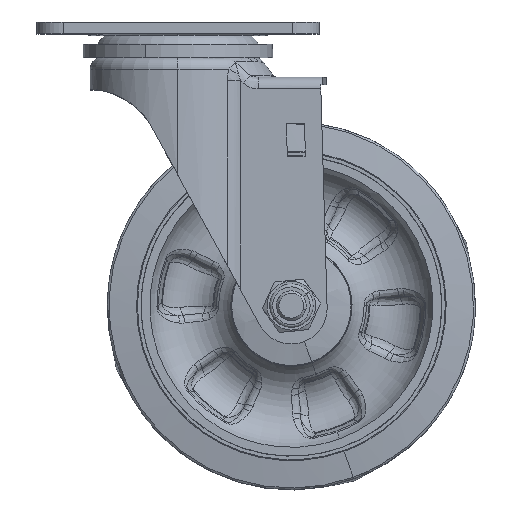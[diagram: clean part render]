
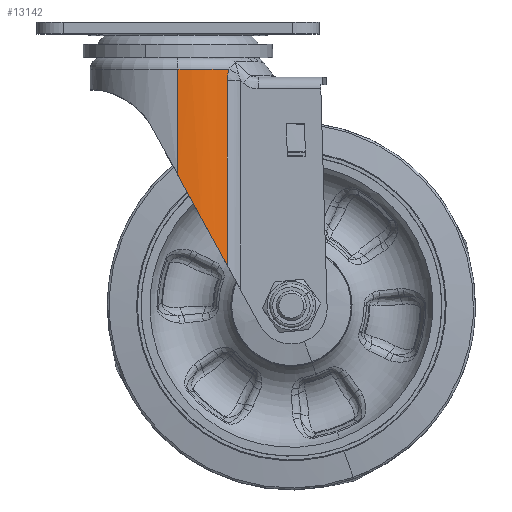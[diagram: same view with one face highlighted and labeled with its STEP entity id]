
A CAD part, top view. The second image highlights one B-rep face of the part: STEP entity #13142.
In plain terms, the highlighted cylindrical face has radius 29.5 mm (diameter 59 mm), a partial arc.
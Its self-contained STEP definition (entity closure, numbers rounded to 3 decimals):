
#267 = CARTESIAN_POINT ( 'NONE',  ( 0., -1.789, 29.5 ) ) ;
#632 = CIRCLE ( 'NONE', #25882, 29.5 ) ;
#3313 = VECTOR ( 'NONE', #17931, 1000. ) ;
#4562 = AXIS2_PLACEMENT_3D ( 'NONE', #7090, #20876, #17707 ) ;
#5695 = DIRECTION ( 'NONE',  ( 0., 0., 1. ) ) ;
#5724 = DIRECTION ( 'NONE',  ( 0., 1., 0. ) ) ;
#6853 = CARTESIAN_POINT ( 'NONE',  ( 16.599, -67.792, 24.387 ) ) ;
#7090 = CARTESIAN_POINT ( 'NONE',  ( 0., 9.943, 0. ) ) ;
#7268 =( BOUNDED_CURVE ( )  B_SPLINE_CURVE ( 3, ( #24094, #17319, #9860, #13021 ),
 .UNSPECIFIED., .F., .T. ) 
 B_SPLINE_CURVE_WITH_KNOTS ( ( 4, 4 ),
 ( 1.571, 2.168 ),
 .UNSPECIFIED. ) 
 CURVE ( )  GEOMETRIC_REPRESENTATION_ITEM ( )  RATIONAL_B_SPLINE_CURVE ( ( 1., 0.97, 0.97, 1. ) ) 
 REPRESENTATION_ITEM ( '' )  );
#9102 = CARTESIAN_POINT ( 'NONE',  ( 0., -1.789, 0. ) ) ;
#9860 = CARTESIAN_POINT ( 'NONE',  ( 11.668, -58.758, 27.744 ) ) ;
#10893 = EDGE_LOOP ( 'NONE', ( #14100, #23816, #21588, #12284, #30601 ) ) ;
#12152 = VERTEX_POINT ( 'NONE', #6853 ) ;
#12284 = ORIENTED_EDGE ( 'NONE', *, *, #21636, .T. ) ;
#13021 = CARTESIAN_POINT ( 'NONE',  ( 16.599, -67.792, 24.387 ) ) ;
#13142 = ADVANCED_FACE ( 'NONE', ( #27674 ), #41471, .T. ) ;
#13426 = VECTOR ( 'NONE', #5724, 1000. ) ;
#14100 = ORIENTED_EDGE ( 'NONE', *, *, #26891, .F. ) ;
#17319 = CARTESIAN_POINT ( 'NONE',  ( 5.966, -48.313, 29.5 ) ) ;
#17707 = DIRECTION ( 'NONE',  ( 0., 0., 1. ) ) ;
#17931 = DIRECTION ( 'NONE',  ( 0., 1., 0. ) ) ;
#18802 = CARTESIAN_POINT ( 'NONE',  ( 16.599, -5.674, 24.387 ) ) ;
#19086 = CARTESIAN_POINT ( 'NONE',  ( 17.096, -1.789, 24.041 ) ) ;
#19715 = CARTESIAN_POINT ( 'NONE',  ( 17.096, -1.789, 24.041 ) ) ;
#19950 = EDGE_CURVE ( 'NONE', #40425, #12152, #7268, .T. ) ;
#20876 = DIRECTION ( 'NONE',  ( 0., 1., 0. ) ) ;
#21588 = ORIENTED_EDGE ( 'NONE', *, *, #27068, .T. ) ;
#21636 = EDGE_CURVE ( 'NONE', #27760, #43125, #26835, .T. ) ;
#22879 = DIRECTION ( 'NONE',  ( 0., 1., 0. ) ) ;
#23816 = ORIENTED_EDGE ( 'NONE', *, *, #19950, .T. ) ;
#24094 = CARTESIAN_POINT ( 'NONE',  ( 0., -37.385, 29.5 ) ) ;
#25150 = LINE ( 'NONE', #28555, #3313 ) ;
#25866 = CARTESIAN_POINT ( 'NONE',  ( 0., 9.943, 29.5 ) ) ;
#25882 = AXIS2_PLACEMENT_3D ( 'NONE', #9102, #22879, #5695 ) ;
#26835 = B_SPLINE_CURVE_WITH_KNOTS ( 'NONE', 3,
 ( #37384, #26964, #41223, #19715 ),
 .UNSPECIFIED., .F., .F.,
 ( 4, 4 ),
 ( 0., 1. ),
 .UNSPECIFIED. ) ;
#26891 = EDGE_CURVE ( 'NONE', #40425, #30179, #40130, .T. ) ;
#26964 = CARTESIAN_POINT ( 'NONE',  ( 16.599, -4.163, 24.387 ) ) ;
#27068 = EDGE_CURVE ( 'NONE', #12152, #27760, #25150, .T. ) ;
#27674 = FACE_OUTER_BOUND ( 'NONE', #10893, .T. ) ;
#27760 = VERTEX_POINT ( 'NONE', #18802 ) ;
#28555 = CARTESIAN_POINT ( 'NONE',  ( 16.599, 9.943, 24.387 ) ) ;
#30179 = VERTEX_POINT ( 'NONE', #267 ) ;
#30601 = ORIENTED_EDGE ( 'NONE', *, *, #40162, .F. ) ;
#30750 = CARTESIAN_POINT ( 'NONE',  ( 0., -37.385, 29.5 ) ) ;
#37384 = CARTESIAN_POINT ( 'NONE',  ( 16.599, -5.674, 24.387 ) ) ;
#40130 = LINE ( 'NONE', #25866, #13426 ) ;
#40162 = EDGE_CURVE ( 'NONE', #30179, #43125, #632, .T. ) ;
#40425 = VERTEX_POINT ( 'NONE', #30750 ) ;
#41223 = CARTESIAN_POINT ( 'NONE',  ( 16.767, -2.868, 24.275 ) ) ;
#41471 = CYLINDRICAL_SURFACE ( 'NONE', #4562, 29.5 ) ;
#43125 = VERTEX_POINT ( 'NONE', #19086 ) ;
